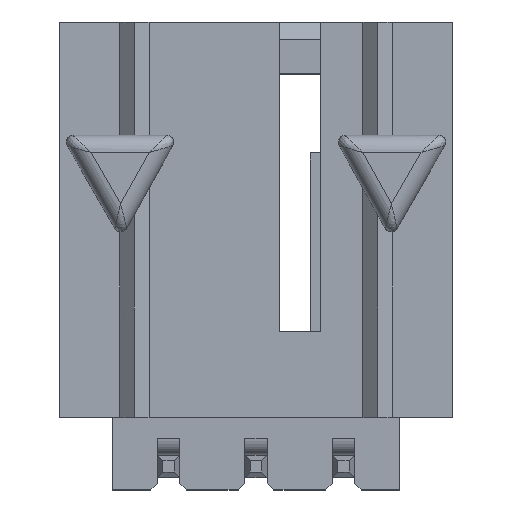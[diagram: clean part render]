
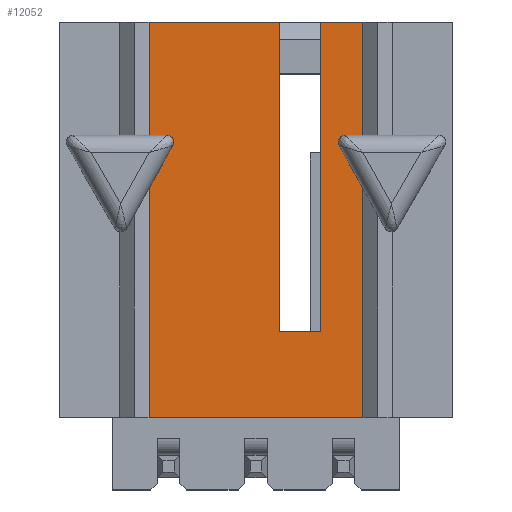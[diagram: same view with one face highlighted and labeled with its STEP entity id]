
A CAD part, top view. The second image highlights one B-rep face of the part: STEP entity #12052.
In plain terms, the highlighted planar face has unit normal (0, 0, 1).
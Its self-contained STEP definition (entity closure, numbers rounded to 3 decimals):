
#136 = VERTEX_POINT ( 'NONE', #3235 ) ;
#313 = ORIENTED_EDGE ( 'NONE', *, *, #14249, .F. ) ;
#361 = VECTOR ( 'NONE', #11106, 1000. ) ;
#747 = DIRECTION ( 'NONE',  ( 0., 0., 1. ) ) ;
#780 = CARTESIAN_POINT ( 'NONE',  ( 1.88, 11.5, 2.54 ) ) ;
#790 = CARTESIAN_POINT ( 'NONE',  ( 2.595, 8., 2.54 ) ) ;
#927 = LINE ( 'NONE', #6369, #6641 ) ;
#1137 = CARTESIAN_POINT ( 'NONE',  ( -5.715, 0., 2.54 ) ) ;
#1331 = ORIENTED_EDGE ( 'NONE', *, *, #3073, .F. ) ;
#1630 = CARTESIAN_POINT ( 'NONE',  ( 2.595, 8.2, 2.54 ) ) ;
#1782 = DIRECTION ( 'NONE',  ( 0., 0., 1. ) ) ;
#1801 = VERTEX_POINT ( 'NONE', #4804 ) ;
#1972 = ORIENTED_EDGE ( 'NONE', *, *, #5698, .F. ) ;
#2107 = DIRECTION ( 'NONE',  ( 1., 0., 0. ) ) ;
#2154 = CARTESIAN_POINT ( 'NONE',  ( 3.11, 0., 2.54 ) ) ;
#2170 = CARTESIAN_POINT ( 'NONE',  ( -2.595, 8., 2.54 ) ) ;
#2178 = AXIS2_PLACEMENT_3D ( 'NONE', #790, #1782, #8919 ) ;
#2248 = VERTEX_POINT ( 'NONE', #10195 ) ;
#2543 = CARTESIAN_POINT ( 'NONE',  ( 3.11, 8.2, 2.54 ) ) ;
#2779 = ORIENTED_EDGE ( 'NONE', *, *, #6255, .F. ) ;
#2909 = EDGE_CURVE ( 'NONE', #136, #5578, #7745, .T. ) ;
#2933 = VECTOR ( 'NONE', #3978, 1000. ) ;
#3073 = EDGE_CURVE ( 'NONE', #17488, #16590, #3635, .T. ) ;
#3235 = CARTESIAN_POINT ( 'NONE',  ( -2.395, 8., 2.54 ) ) ;
#3538 = ORIENTED_EDGE ( 'NONE', *, *, #11760, .F. ) ;
#3635 = LINE ( 'NONE', #780, #17138 ) ;
#3685 = DIRECTION ( 'NONE',  ( 0.874, -0.487, 0. ) ) ;
#3721 = CARTESIAN_POINT ( 'NONE',  ( 1.88, 11.5, 2.54 ) ) ;
#3748 = CARTESIAN_POINT ( 'NONE',  ( 0.68, 11.5, 2.54 ) ) ;
#3892 = CARTESIAN_POINT ( 'NONE',  ( -2.595, 8.2, 2.54 ) ) ;
#3922 = DIRECTION ( 'NONE',  ( 0., 0., 1. ) ) ;
#3924 = ORIENTED_EDGE ( 'NONE', *, *, #7571, .T. ) ;
#3978 = DIRECTION ( 'NONE',  ( -1., 0., 0. ) ) ;
#3985 = ORIENTED_EDGE ( 'NONE', *, *, #15961, .F. ) ;
#4013 = LINE ( 'NONE', #3748, #12437 ) ;
#4293 = ORIENTED_EDGE ( 'NONE', *, *, #2909, .F. ) ;
#4463 = CARTESIAN_POINT ( 'NONE',  ( 3.11, 6.665, 2.54 ) ) ;
#4559 = CARTESIAN_POINT ( 'NONE',  ( -2.595, 8.2, 2.54 ) ) ;
#4796 = LINE ( 'NONE', #10057, #6590 ) ;
#4804 = CARTESIAN_POINT ( 'NONE',  ( -3.11, 8.2, 2.54 ) ) ;
#4829 = ORIENTED_EDGE ( 'NONE', *, *, #8234, .F. ) ;
#4832 = LINE ( 'NONE', #11782, #17374 ) ;
#4865 = EDGE_CURVE ( 'NONE', #12724, #11820, #12067, .T. ) ;
#4921 = CARTESIAN_POINT ( 'NONE',  ( -2.42, 7.903, 2.54 ) ) ;
#5126 = LINE ( 'NONE', #16252, #6829 ) ;
#5146 = DIRECTION ( 'NONE',  ( 0.487, -0.874, 0. ) ) ;
#5225 = VECTOR ( 'NONE', #9419, 1000. ) ;
#5578 = VERTEX_POINT ( 'NONE', #4559 ) ;
#5670 = CARTESIAN_POINT ( 'NONE',  ( 1.88, 11.5, 2.54 ) ) ;
#5698 = EDGE_CURVE ( 'NONE', #1801, #13621, #9909, .T. ) ;
#5795 = VECTOR ( 'NONE', #5146, 1000. ) ;
#6233 = DIRECTION ( 'NONE',  ( 1., 0., 0. ) ) ;
#6255 = EDGE_CURVE ( 'NONE', #13621, #7002, #7971, .T. ) ;
#6369 = CARTESIAN_POINT ( 'NONE',  ( 0.68, 2.5, 2.54 ) ) ;
#6392 = LINE ( 'NONE', #7995, #5795 ) ;
#6548 = DIRECTION ( 'NONE',  ( 0., 1., 0. ) ) ;
#6590 = VECTOR ( 'NONE', #2107, 1000. ) ;
#6641 = VECTOR ( 'NONE', #17243, 1000. ) ;
#6730 = CIRCLE ( 'NONE', #9013, 0.2 ) ;
#6751 = ORIENTED_EDGE ( 'NONE', *, *, #13486, .T. ) ;
#6829 = VECTOR ( 'NONE', #6548, 1000. ) ;
#6947 = EDGE_CURVE ( 'NONE', #8527, #12724, #4796, .T. ) ;
#7002 = VERTEX_POINT ( 'NONE', #11480 ) ;
#7081 = VERTEX_POINT ( 'NONE', #14759 ) ;
#7187 = VECTOR ( 'NONE', #15339, 1000. ) ;
#7255 = VERTEX_POINT ( 'NONE', #15729 ) ;
#7279 = ORIENTED_EDGE ( 'NONE', *, *, #13696, .F. ) ;
#7344 = VECTOR ( 'NONE', #14814, 1000. ) ;
#7379 = CARTESIAN_POINT ( 'NONE',  ( 2.42, 7.903, 2.54 ) ) ;
#7440 = VECTOR ( 'NONE', #16247, 1000. ) ;
#7571 = EDGE_CURVE ( 'NONE', #7255, #16590, #14181, .T. ) ;
#7663 = ORIENTED_EDGE ( 'NONE', *, *, #14285, .F. ) ;
#7737 = ORIENTED_EDGE ( 'NONE', *, *, #4865, .T. ) ;
#7745 = CIRCLE ( 'NONE', #16847, 0.2 ) ;
#7971 = LINE ( 'NONE', #17499, #10904 ) ;
#7995 = CARTESIAN_POINT ( 'NONE',  ( 2.42, 7.903, 2.54 ) ) ;
#8011 = FACE_OUTER_BOUND ( 'NONE', #10691, .T. ) ;
#8059 = DIRECTION ( 'NONE',  ( 1., 0., 0. ) ) ;
#8234 = EDGE_CURVE ( 'NONE', #8527, #7081, #5126, .T. ) ;
#8527 = VERTEX_POINT ( 'NONE', #14909 ) ;
#8668 = ORIENTED_EDGE ( 'NONE', *, *, #8761, .F. ) ;
#8761 = EDGE_CURVE ( 'NONE', #7081, #11450, #4832, .T. ) ;
#8820 = DIRECTION ( 'NONE',  ( 1., 0., 0. ) ) ;
#8919 = DIRECTION ( 'NONE',  ( 0., 1., 0. ) ) ;
#9013 = AXIS2_PLACEMENT_3D ( 'NONE', #2170, #747, #3685 ) ;
#9362 = DIRECTION ( 'NONE',  ( 0.874, -0.487, 0. ) ) ;
#9419 = DIRECTION ( 'NONE',  ( -1., 0., 0. ) ) ;
#9909 = LINE ( 'NONE', #15519, #7187 ) ;
#9986 = CARTESIAN_POINT ( 'NONE',  ( 1.88, 2.5, 2.54 ) ) ;
#10057 = CARTESIAN_POINT ( 'NONE',  ( -3.11, 0., 2.54 ) ) ;
#10195 = CARTESIAN_POINT ( 'NONE',  ( 0.68, 2.5, 2.54 ) ) ;
#10212 = VERTEX_POINT ( 'NONE', #9986 ) ;
#10691 = EDGE_LOOP ( 'NONE', ( #313, #3924, #1331, #6751, #7279, #11905, #2779, #1972, #15991, #4293, #3985, #8668, #4829, #16770, #7737, #7663, #3538 ) ) ;
#10749 = LINE ( 'NONE', #5670, #361 ) ;
#10904 = VECTOR ( 'NONE', #8059, 1000. ) ;
#11106 = DIRECTION ( 'NONE',  ( 0., -1., 0. ) ) ;
#11414 = CARTESIAN_POINT ( 'NONE',  ( 3.11, 11.5, 2.54 ) ) ;
#11450 = VERTEX_POINT ( 'NONE', #4921 ) ;
#11480 = CARTESIAN_POINT ( 'NONE',  ( 0.68, 11.5, 2.54 ) ) ;
#11760 = EDGE_CURVE ( 'NONE', #16191, #12327, #17551, .T. ) ;
#11782 = CARTESIAN_POINT ( 'NONE',  ( -3.11, 6.665, 2.54 ) ) ;
#11820 = VERTEX_POINT ( 'NONE', #4463 ) ;
#11905 = ORIENTED_EDGE ( 'NONE', *, *, #16408, .F. ) ;
#12052 = ADVANCED_FACE ( 'NONE', ( #8011 ), #14514, .T. ) ;
#12067 = LINE ( 'NONE', #14641, #7344 ) ;
#12327 = VERTEX_POINT ( 'NONE', #7379 ) ;
#12437 = VECTOR ( 'NONE', #16130, 1000. ) ;
#12724 = VERTEX_POINT ( 'NONE', #2154 ) ;
#13448 = DIRECTION ( 'NONE',  ( 0., 0., 1. ) ) ;
#13486 = EDGE_CURVE ( 'NONE', #17488, #10212, #10749, .T. ) ;
#13621 = VERTEX_POINT ( 'NONE', #16800 ) ;
#13696 = EDGE_CURVE ( 'NONE', #2248, #10212, #927, .T. ) ;
#14181 = LINE ( 'NONE', #16760, #7440 ) ;
#14249 = EDGE_CURVE ( 'NONE', #7255, #16191, #14501, .T. ) ;
#14263 = EDGE_CURVE ( 'NONE', #5578, #1801, #16095, .T. ) ;
#14285 = EDGE_CURVE ( 'NONE', #12327, #11820, #6392, .T. ) ;
#14501 = LINE ( 'NONE', #2543, #2933 ) ;
#14514 = PLANE ( 'NONE',  #17289 ) ;
#14641 = CARTESIAN_POINT ( 'NONE',  ( 3.11, 0., 2.54 ) ) ;
#14759 = CARTESIAN_POINT ( 'NONE',  ( -3.11, 6.665, 2.54 ) ) ;
#14814 = DIRECTION ( 'NONE',  ( 0., 1., 0. ) ) ;
#14909 = CARTESIAN_POINT ( 'NONE',  ( -3.11, 0., 2.54 ) ) ;
#15339 = DIRECTION ( 'NONE',  ( 0., 1., 0. ) ) ;
#15519 = CARTESIAN_POINT ( 'NONE',  ( -3.11, 8.2, 2.54 ) ) ;
#15729 = CARTESIAN_POINT ( 'NONE',  ( 3.11, 8.2, 2.54 ) ) ;
#15787 = DIRECTION ( 'NONE',  ( 0.487, 0.874, 0. ) ) ;
#15961 = EDGE_CURVE ( 'NONE', #11450, #136, #6730, .T. ) ;
#15991 = ORIENTED_EDGE ( 'NONE', *, *, #14263, .F. ) ;
#16095 = LINE ( 'NONE', #3892, #5225 ) ;
#16123 = CARTESIAN_POINT ( 'NONE',  ( -2.595, 8., 2.54 ) ) ;
#16130 = DIRECTION ( 'NONE',  ( 0., -1., 0. ) ) ;
#16191 = VERTEX_POINT ( 'NONE', #1630 ) ;
#16247 = DIRECTION ( 'NONE',  ( 0., 1., 0. ) ) ;
#16252 = CARTESIAN_POINT ( 'NONE',  ( -3.11, 0., 2.54 ) ) ;
#16408 = EDGE_CURVE ( 'NONE', #7002, #2248, #4013, .T. ) ;
#16590 = VERTEX_POINT ( 'NONE', #11414 ) ;
#16760 = CARTESIAN_POINT ( 'NONE',  ( 3.11, 8.2, 2.54 ) ) ;
#16770 = ORIENTED_EDGE ( 'NONE', *, *, #6947, .T. ) ;
#16800 = CARTESIAN_POINT ( 'NONE',  ( -3.11, 11.5, 2.54 ) ) ;
#16847 = AXIS2_PLACEMENT_3D ( 'NONE', #16123, #3922, #9362 ) ;
#17138 = VECTOR ( 'NONE', #8820, 1000. ) ;
#17243 = DIRECTION ( 'NONE',  ( 1., 0., 0. ) ) ;
#17289 = AXIS2_PLACEMENT_3D ( 'NONE', #1137, #13448, #6233 ) ;
#17374 = VECTOR ( 'NONE', #15787, 1000. ) ;
#17488 = VERTEX_POINT ( 'NONE', #3721 ) ;
#17499 = CARTESIAN_POINT ( 'NONE',  ( -3.11, 11.5, 2.54 ) ) ;
#17551 = CIRCLE ( 'NONE', #2178, 0.2 ) ;
